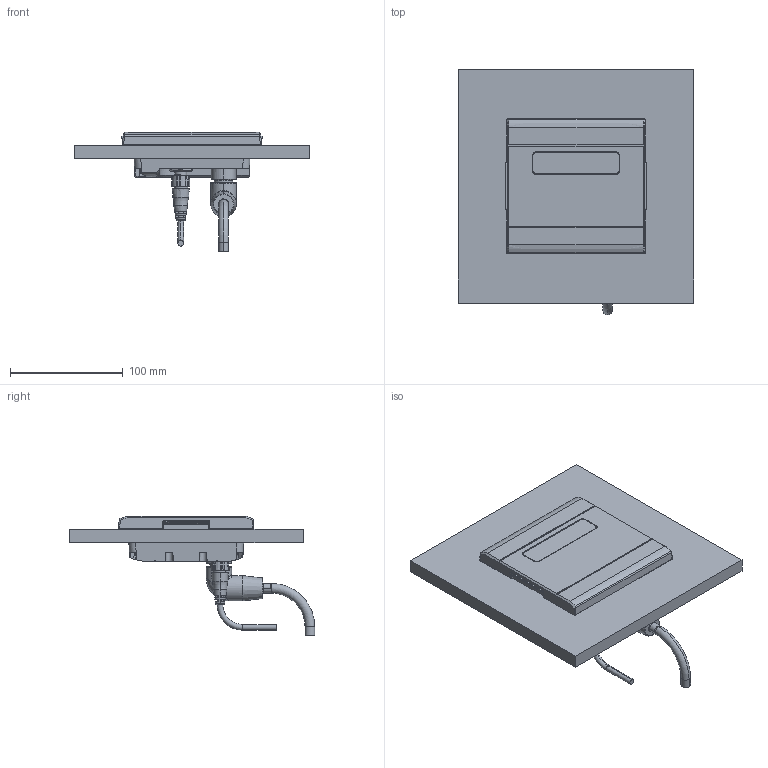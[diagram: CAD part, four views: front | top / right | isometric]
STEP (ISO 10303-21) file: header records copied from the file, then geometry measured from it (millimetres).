
FILE_DESCRIPTION((''),'2;1');
FILE_NAME('YD42_ASSY_ASM','2018-12-21T',('ib46307'),(''),'PRO/ENGINEER BY PARAMETRIC TECHNOLOGY CORPORATION, 2015360','PRO/ENGINEER BY PARAMETRIC TECHNOLOGY CORPORATION, 2015360','');
FILE_SCHEMA(('CONFIG_CONTROL_DESIGN'));
Length unit declared in the file: millimetre
Products named in the file (5): YD42_DISPLAY; YD42_SUNCOVER; YD42_SEAL; YD42_CUTOUT; YD42_ASSY_ASM
Assembly tree (4 placements, depth 2):
  YD42_ASSY_ASM
    YD42_DISPLAY
    YD42_SUNCOVER
    YD42_SEAL
    YD42_CUTOUT
Bounding box: 209 x 217.6 x 105.8 mm (x, y, z)
Volume: 835122.2 mm3; surface area: 180066.7 mm2
Topology: 4 solids, 4 shells, 803 faces, 2233 edges, 1485 vertices
Faces by surface type: plane 438, cylinder 170, cone 97, bspline 42, torus 28, extrusion 14, sphere 14
Entity records: 29390 total; most frequent: CARTESIAN_POINT 8913, ORIENTED_EDGE 4440, DIRECTION 4005, EDGE_CURVE 2220, VERTEX_POINT 1485, AXIS2_PLACEMENT_3D 1363, VECTOR 1279, LINE 1265
